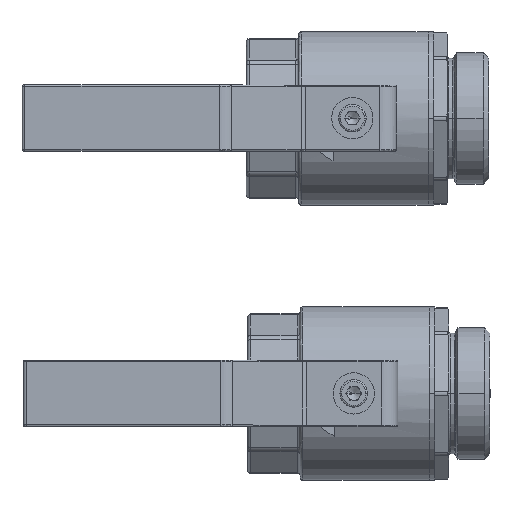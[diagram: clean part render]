
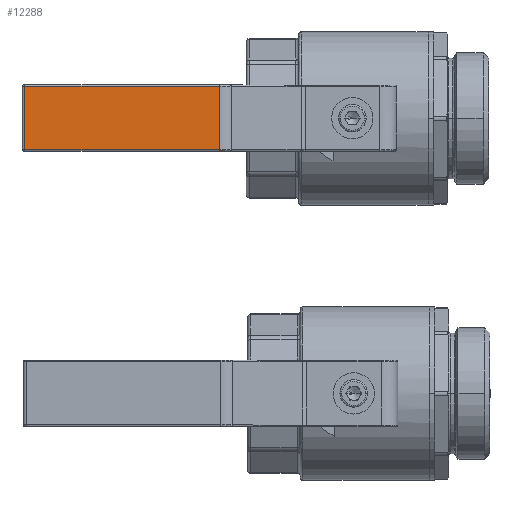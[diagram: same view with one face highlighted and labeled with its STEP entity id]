
A CAD part, top view. The second image highlights one B-rep face of the part: STEP entity #12288.
In plain terms, the highlighted planar face has unit normal (0, 0, 1) as drawn and (0, 1, 0) by its records, which use the part's own axes.
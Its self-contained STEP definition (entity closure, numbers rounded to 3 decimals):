
#1253 = DIRECTION ( 'NONE',  ( 0., 0., -1. ) ) ;
#1266 = CARTESIAN_POINT ( 'NONE',  ( 119., 73., -11.5 ) ) ;
#2068 = PLANE ( 'NONE',  #14260 ) ;
#2878 = DIRECTION ( 'NONE',  ( 1., 0., 0. ) ) ;
#2963 = VECTOR ( 'NONE', #1253, 1000. ) ;
#3542 = LINE ( 'NONE', #26726, #15365 ) ;
#3636 = LINE ( 'NONE', #17918, #22518 ) ;
#4289 = DIRECTION ( 'NONE',  ( -1., 0., 0. ) ) ;
#4629 = ORIENTED_EDGE ( 'NONE', *, *, #27823, .F. ) ;
#7218 = LINE ( 'NONE', #21130, #2963 ) ;
#10001 = ORIENTED_EDGE ( 'NONE', *, *, #12642, .F. ) ;
#11433 = ORIENTED_EDGE ( 'NONE', *, *, #23736, .F. ) ;
#12288 = ADVANCED_FACE ( 'NONE', ( #19119 ), #2068, .T. ) ;
#12642 = EDGE_CURVE ( 'NONE', #24103, #36081, #19402, .T. ) ;
#13390 = DIRECTION ( 'NONE',  ( -1., 0., 0. ) ) ;
#14260 = AXIS2_PLACEMENT_3D ( 'NONE', #33348, #27652, #13390 ) ;
#15365 = VECTOR ( 'NONE', #4289, 1000. ) ;
#17918 = CARTESIAN_POINT ( 'NONE',  ( 119., 73., -12. ) ) ;
#18059 = EDGE_CURVE ( 'NONE', #31206, #24103, #7218, .T. ) ;
#19119 = FACE_OUTER_BOUND ( 'NONE', #34897, .T. ) ;
#19402 = LINE ( 'NONE', #24798, #26792 ) ;
#21130 = CARTESIAN_POINT ( 'NONE',  ( 48.222, 73., -12. ) ) ;
#22518 = VECTOR ( 'NONE', #26285, 1000. ) ;
#23385 = CARTESIAN_POINT ( 'NONE',  ( 119., 73., 11.5 ) ) ;
#23736 = EDGE_CURVE ( 'NONE', #28395, #31206, #3542, .T. ) ;
#24103 = VERTEX_POINT ( 'NONE', #28307 ) ;
#24798 = CARTESIAN_POINT ( 'NONE',  ( 48.222, 73., -11.5 ) ) ;
#26285 = DIRECTION ( 'NONE',  ( 0., 0., 1. ) ) ;
#26726 = CARTESIAN_POINT ( 'NONE',  ( 119., 73., 11.5 ) ) ;
#26792 = VECTOR ( 'NONE', #2878, 1000. ) ;
#27652 = DIRECTION ( 'NONE',  ( 0., 1., 0. ) ) ;
#27823 = EDGE_CURVE ( 'NONE', #36081, #28395, #3636, .T. ) ;
#28307 = CARTESIAN_POINT ( 'NONE',  ( 48.222, 73., -11.5 ) ) ;
#28395 = VERTEX_POINT ( 'NONE', #23385 ) ;
#28536 = CARTESIAN_POINT ( 'NONE',  ( 48.222, 73., 11.5 ) ) ;
#29020 = ORIENTED_EDGE ( 'NONE', *, *, #18059, .F. ) ;
#31206 = VERTEX_POINT ( 'NONE', #28536 ) ;
#33348 = CARTESIAN_POINT ( 'NONE',  ( 48.222, 73., -12. ) ) ;
#34897 = EDGE_LOOP ( 'NONE', ( #29020, #11433, #4629, #10001 ) ) ;
#36081 = VERTEX_POINT ( 'NONE', #1266 ) ;
